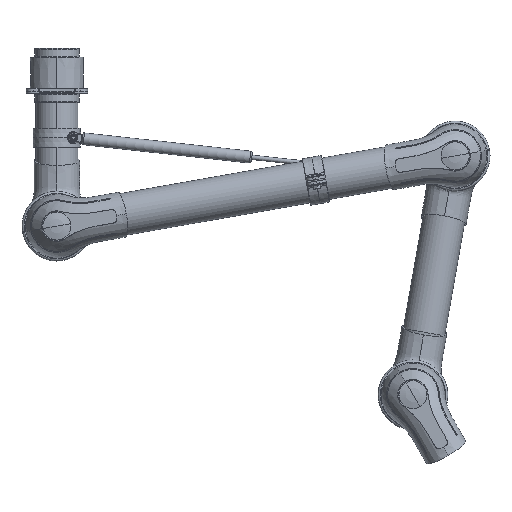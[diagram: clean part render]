
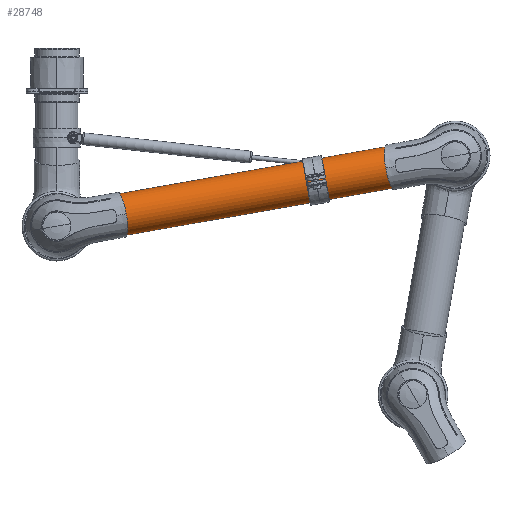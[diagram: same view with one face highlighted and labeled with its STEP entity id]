
A CAD part, top view. The second image highlights one B-rep face of the part: STEP entity #28748.
In plain terms, the highlighted cylindrical face has radius 39 mm (diameter 78 mm), a partial arc.
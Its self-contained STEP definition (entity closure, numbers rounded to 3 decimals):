
#28661=CARTESIAN_POINT('',(0.,0.,0.));
#28662=DIRECTION('',(1.,0.,0.));
#28663=DIRECTION('',(0.,1.,0.));
#28664=AXIS2_PLACEMENT_3D('',#28661,#28662,#28663);
#28669=DIRECTION('',(-1.,0.,0.));
#28670=VECTOR('',#28669,610.);
#28671=CARTESIAN_POINT('',(0.,39.,0.));
#28672=LINE('',#28671,#28670);
#28676=DIRECTION('',(-1.,0.,0.));
#28677=VECTOR('',#28676,610.);
#28678=CARTESIAN_POINT('',(0.,-39.,0.));
#28679=LINE('',#28678,#28677);
#28699=CARTESIAN_POINT('',(-610.,0.,0.));
#28700=DIRECTION('',(1.,0.,0.));
#28701=DIRECTION('',(0.,1.,0.));
#28702=AXIS2_PLACEMENT_3D('',#28699,#28700,#28701);
#28707=CARTESIAN_POINT('',(0.,39.,0.));
#28708=CARTESIAN_POINT('',(-610.,39.,0.));
#28709=VERTEX_POINT('',#28707);
#28710=VERTEX_POINT('',#28708);
#28711=CARTESIAN_POINT('',(0.,-39.,0.));
#28712=CARTESIAN_POINT('',(-610.,-39.,0.));
#28713=VERTEX_POINT('',#28711);
#28714=VERTEX_POINT('',#28712);
#28734=CARTESIAN_POINT('',(-640.5,0.,0.));
#28735=DIRECTION('',(1.,0.,0.));
#28736=DIRECTION('',(0.,-1.,0.));
#28737=AXIS2_PLACEMENT_3D('',#28734,#28735,#28736);
#28738=CYLINDRICAL_SURFACE('',#28737,39.);
#28740=ORIENTED_EDGE('',*,*,#28739,.F.);
#28741=ORIENTED_EDGE('',*,*,#28720,.T.);
#28743=ORIENTED_EDGE('',*,*,#28742,.T.);
#28745=ORIENTED_EDGE('',*,*,#28744,.F.);
#28746=EDGE_LOOP('',(#28740,#28741,#28743,#28745));
#28747=FACE_OUTER_BOUND('',#28746,.F.);
#28665=CIRCLE('',#28664,39.);
#28703=CIRCLE('',#28702,39.);
#28720=EDGE_CURVE('',#28709,#28713,#28665,.T.);
#28739=EDGE_CURVE('',#28709,#28710,#28672,.T.);
#28742=EDGE_CURVE('',#28713,#28714,#28679,.T.);
#28744=EDGE_CURVE('',#28710,#28714,#28703,.T.);
#28748=ADVANCED_FACE('',(#28747),#28738,.T.);
